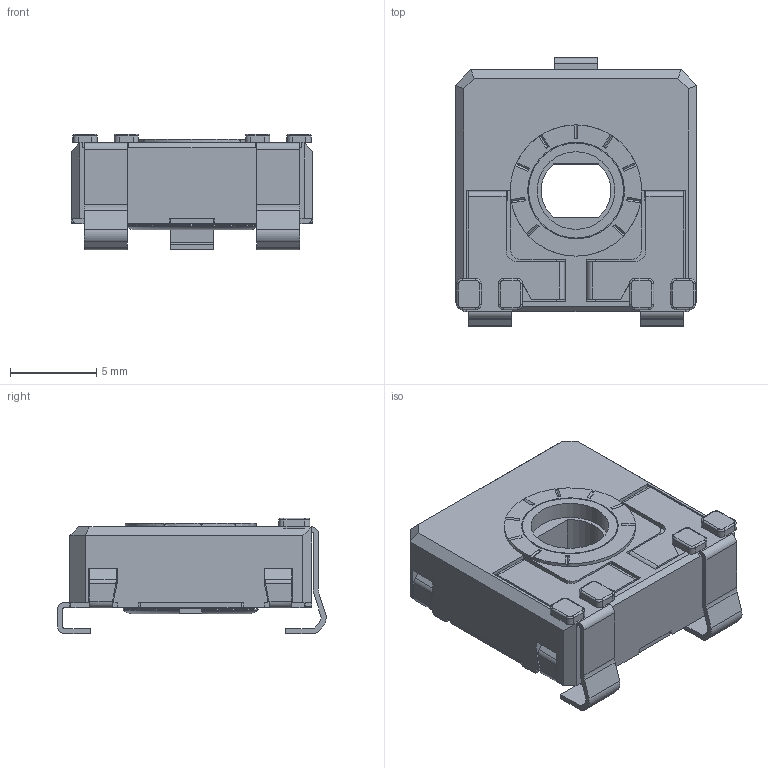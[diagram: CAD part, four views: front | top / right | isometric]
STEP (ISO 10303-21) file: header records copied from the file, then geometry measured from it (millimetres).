
FILE_DESCRIPTION(/* description */ (''),/* implementation_level */ '2;1');
FILE_NAME(/* name */ 'C:\Users\CEM\Desktop\ENVIAR\TRANSICION 3D CATALOGOS\RS14NVSMD.stp',/* time_stamp */ '2025-12-10T12:18:09+01:00',/* author */ ('CEM'),/* organization */ (''),/* preprocessor_version */ 'ST-DEVELOPER v16.13',/* originating_system */ 'Autodesk Inventor 2018',/* authorisation */ '');
FILE_SCHEMA (('AUTOMOTIVE_DESIGN { 1 0 10303 214 3 1 1 }'));
Length unit declared in the file: millimetre
Products named in the file (1): CARCASA CA14 PGA
Bounding box: 14 x 15.55 x 6.7 mm (x, y, z)
Volume: 530.4 mm3; surface area: 1457.3 mm2
Topology: 1 solids, 1 shells, 549 faces, 1548 edges, 987 vertices
Faces by surface type: plane 406, cylinder 106, torus 23, bspline 8, cone 6
Full cylindrical faces by diameter (mm): 4.5 x1, 5.1 x1, 5.5 x1, 5.6 x1, 5.752 x1, 6.8 x1, 7.6 x1
Entity records: 17808 total; most frequent: CARTESIAN_POINT 3274, ORIENTED_EDGE 3062, DIRECTION 2882, EDGE_CURVE 1531, LINE 1208, VECTOR 1208, VERTEX_POINT 981, AXIS2_PLACEMENT_3D 837
